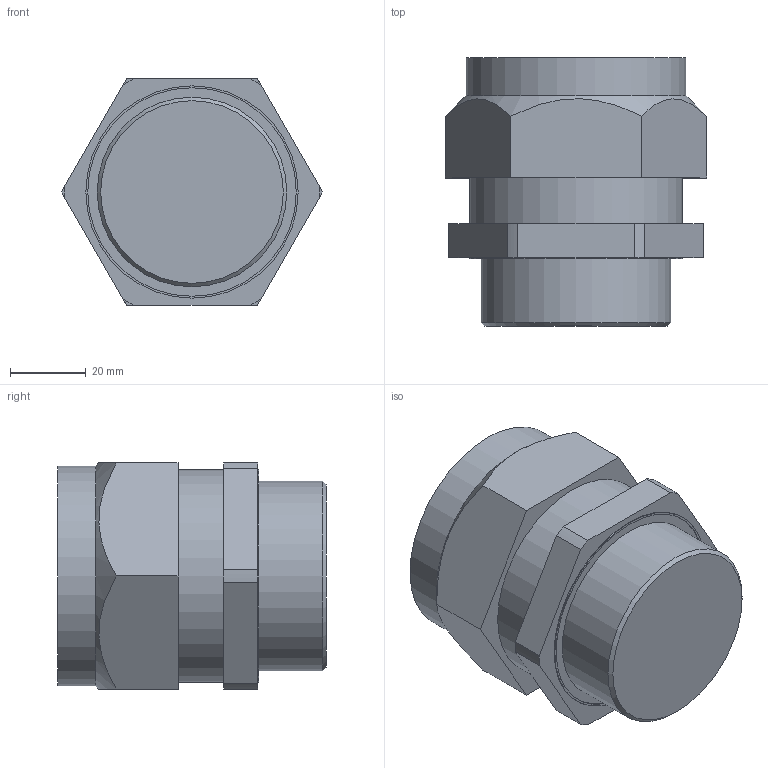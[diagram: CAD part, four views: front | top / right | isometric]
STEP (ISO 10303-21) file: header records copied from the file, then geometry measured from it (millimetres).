
FILE_DESCRIPTION( ( 'STEP AP214' ), '1' );
FILE_NAME( 'p:/temp/worker_115/temp/exporttempdir_2988_608_3ESH9/format_0/CPG50(0).stp', '2021-03-15T14:48:51', ( 'License CC BY-ND 4.0' ), ( 'CADENAS' ), ' ', 'PARTsolutions', ' ' );
FILE_SCHEMA( ( 'AUTOMOTIVE_DESIGN { 1 0 10303 214 1 1 1 1 }' ) );
Length unit declared in the file: millimetre
Products named in the file (1): _CPG50(0)
Bounding box: 68.85 x 70.76 x 59.63 mm (x, y, z)
Volume: 172457.4 mm3; surface area: 21414.2 mm2
Topology: 1 solids, 1 shells, 34 faces, 76 edges, 50 vertices
Faces by surface type: plane 20, cylinder 12, cone 2
Full cylindrical faces by diameter (mm): 40.3 x1, 50 x1, 55 x1, 56 x2, 58 x1
Entity records: 1286 total; most frequent: CARTESIAN_POINT 261, DIRECTION 156, ORIENTED_EDGE 134, EDGE_CURVE 67, AXIS2_PLACEMENT_3D 60, VERTEX_POINT 49, EDGE_LOOP 48, FACE_OUTER_BOUND 40
